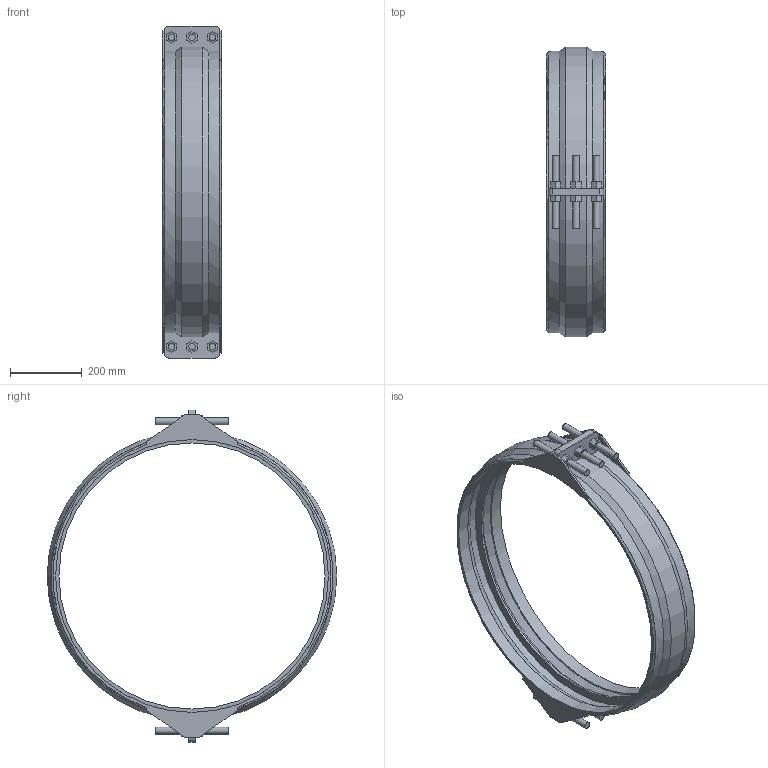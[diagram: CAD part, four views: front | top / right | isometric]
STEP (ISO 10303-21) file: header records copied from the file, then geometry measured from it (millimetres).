
FILE_DESCRIPTION(/* description */ ('VIC SS RESTRAINED COUPLING STYLE 234S (FLEX) (BRS)','CAx-IF Rec.Pracs.---Representation and Presentation of Product Manufacturing Information (PMI)---4.0---2014-10-13'),/* implementation_level */ '2;1');
FILE_NAME(/* name */ 'C:\Users\kkamble\AppData\Roaming\Autodesk\ApplicationPlugins\Back Up\Victaulic_VBSP_Coupling Flexible Restrained_Style 234S (BRS)\Victaulic_VBSP_Coupling Flexible Restrained_Style 234S (BRS)_200psi_30 (750).stp',/* time_stamp */ '2020-09-22T18:41:30+05:00',/* author */ ('Vjadhav'),/* organization */ ('Victaulic'),/* preprocessor_version */ 'ST-DEVELOPER v17.2',/* originating_system */ 'Autodesk Inventor 2019',/* authorisation */ '');
FILE_SCHEMA (('AP242_MANAGED_MODEL_BASED_3D_ENGINEERING_MIM_LF { 1 0 10303 442 1 1 4 }'));
Length unit declared in the file: inch
Products named in the file (1): Style_234S_Type_2_200psi-30.0
Bounding box: 165.1 x 808.91 x 927.1 mm (x, y, z)
Volume: 5823173.8 mm3; surface area: 1195526.5 mm2
Topology: 1 solids, 1 shells, 191 faces, 477 edges, 316 vertices
Faces by surface type: plane 136, cylinder 43, torus 6, cone 6
Full cylindrical faces by diameter (mm): 19.05 x12, 742.95 x1, 762 x2, 789.858 x2
Entity records: 6138 total; most frequent: CARTESIAN_POINT 1154, DIRECTION 989, ORIENTED_EDGE 954, EDGE_CURVE 477, LINE 343, VECTOR 343, AXIS2_PLACEMENT_3D 323, VERTEX_POINT 316
